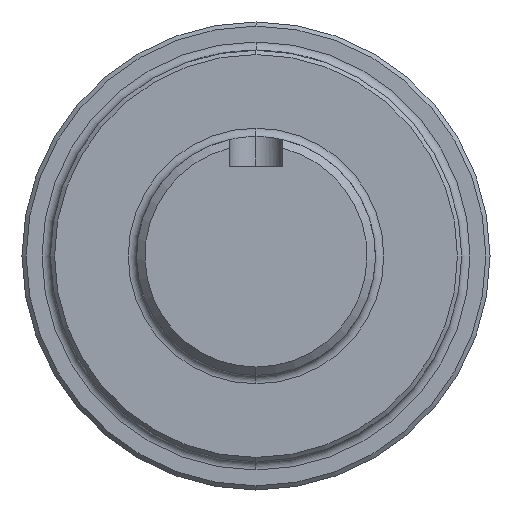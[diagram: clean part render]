
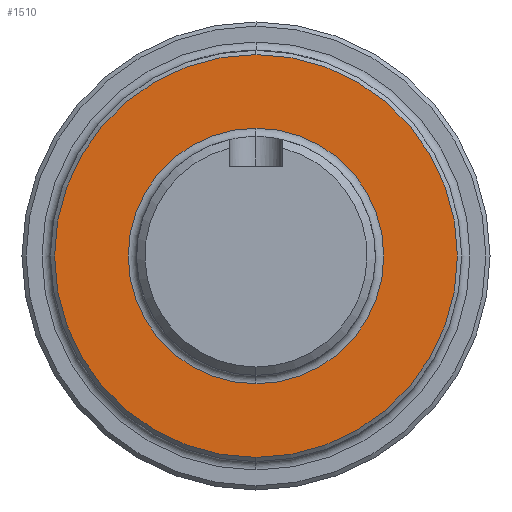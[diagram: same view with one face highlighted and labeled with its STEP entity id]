
A CAD part, left-side view. The second image highlights one B-rep face of the part: STEP entity #1510.
In plain terms, the highlighted planar face has unit normal (-1, 0, 0).
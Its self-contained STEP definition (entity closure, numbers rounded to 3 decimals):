
#47 = CIRCLE ( 'NONE', #1527, 24.105 ) ;
#174 = ORIENTED_EDGE ( 'NONE', *, *, #1840, .T. ) ;
#175 = ORIENTED_EDGE ( 'NONE', *, *, #268, .T. ) ;
#176 = ORIENTED_EDGE ( 'NONE', *, *, #269, .T. ) ;
#177 = ORIENTED_EDGE ( 'NONE', *, *, #1850, .T. ) ;
#268 = EDGE_CURVE ( 'NONE', #1103, #1125, #910, .T. ) ;
#269 = EDGE_CURVE ( 'NONE', #1628, #1111, #909, .T. ) ;
#352 = AXIS2_PLACEMENT_3D ( 'NONE', #427, #428, #429 ) ;
#353 = AXIS2_PLACEMENT_3D ( 'NONE', #432, #433, #434 ) ;
#427 = CARTESIAN_POINT ( 'NONE',  ( -95.4, 0., 0. ) ) ;
#428 = DIRECTION ( 'NONE',  ( 1., 0., 0. ) ) ;
#429 = DIRECTION ( 'NONE',  ( 0., 0., 1. ) ) ;
#432 = CARTESIAN_POINT ( 'NONE',  ( -95.4, 0., 0. ) ) ;
#433 = DIRECTION ( 'NONE',  ( -1., 0., 0. ) ) ;
#434 = DIRECTION ( 'NONE',  ( 0., 0., 1. ) ) ;
#508 = CARTESIAN_POINT ( 'NONE',  ( -95.4, 0., -15.29 ) ) ;
#516 = CARTESIAN_POINT ( 'NONE',  ( -95.4, 0., 24.105 ) ) ;
#530 = CARTESIAN_POINT ( 'NONE',  ( -95.4, 0., 15.29 ) ) ;
#650 = PLANE ( 'NONE',  #1715 ) ;
#651 = CARTESIAN_POINT ( 'NONE',  ( -95.4, 0., 0. ) ) ;
#652 = DIRECTION ( 'NONE',  ( -1., 0., 0. ) ) ;
#653 = DIRECTION ( 'NONE',  ( 0., 0., 1. ) ) ;
#699 = CARTESIAN_POINT ( 'NONE',  ( -95.4, 0., -24.105 ) ) ;
#797 = CARTESIAN_POINT ( 'NONE',  ( -95.4, 0., 0. ) ) ;
#798 = DIRECTION ( 'NONE',  ( 1., 0., 0. ) ) ;
#799 = DIRECTION ( 'NONE',  ( 0., 0., 1. ) ) ;
#846 = CARTESIAN_POINT ( 'NONE',  ( -95.4, 0., 0. ) ) ;
#847 = DIRECTION ( 'NONE',  ( -1., 0., 0. ) ) ;
#848 = DIRECTION ( 'NONE',  ( 0., 0., 1. ) ) ;
#909 = CIRCLE ( 'NONE', #353, 24.105 ) ;
#910 = CIRCLE ( 'NONE', #352, 15.29 ) ;
#1103 = VERTEX_POINT ( 'NONE', #508 ) ;
#1111 = VERTEX_POINT ( 'NONE', #516 ) ;
#1125 = VERTEX_POINT ( 'NONE', #530 ) ;
#1223 = FACE_BOUND ( 'NONE', #1670, .T. ) ;
#1226 = FACE_OUTER_BOUND ( 'NONE', #1669, .T. ) ;
#1271 = CIRCLE ( 'NONE', #1741, 15.29 ) ;
#1510 = ADVANCED_FACE ( 'NONE', ( #1223, #1226 ), #650, .T. ) ;
#1527 = AXIS2_PLACEMENT_3D ( 'NONE', #846, #847, #848 ) ;
#1628 = VERTEX_POINT ( 'NONE', #699 ) ;
#1669 = EDGE_LOOP ( 'NONE', ( #176, #177 ) ) ;
#1670 = EDGE_LOOP ( 'NONE', ( #174, #175 ) ) ;
#1715 = AXIS2_PLACEMENT_3D ( 'NONE', #651, #652, #653 ) ;
#1741 = AXIS2_PLACEMENT_3D ( 'NONE', #797, #798, #799 ) ;
#1840 = EDGE_CURVE ( 'NONE', #1125, #1103, #1271, .T. ) ;
#1850 = EDGE_CURVE ( 'NONE', #1111, #1628, #47, .T. ) ;
